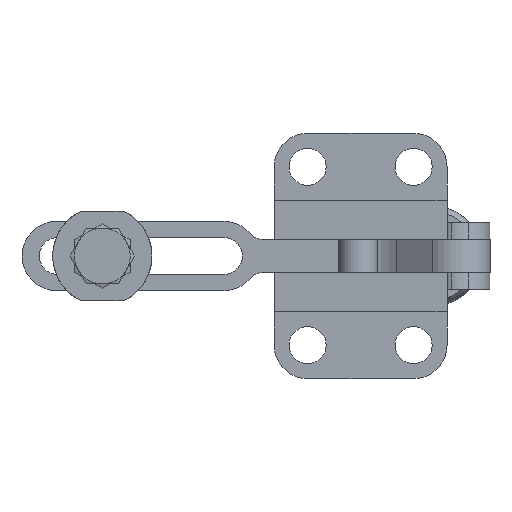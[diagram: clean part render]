
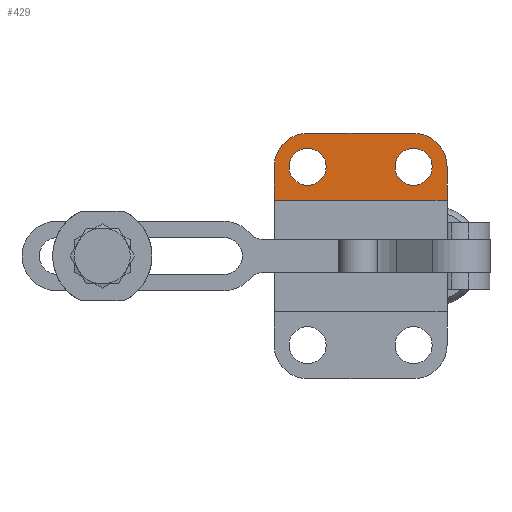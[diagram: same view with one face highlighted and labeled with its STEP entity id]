
A CAD part, front view. The second image highlights one B-rep face of the part: STEP entity #429.
In plain terms, the highlighted planar face has unit normal (0, -1, 0).
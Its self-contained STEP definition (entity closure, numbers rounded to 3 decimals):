
#429 = ADVANCED_FACE( '', ( #793, #794, #795 ), #796, .T. );
#793 = FACE_BOUND( '', #1532, .T. );
#794 = FACE_BOUND( '', #1533, .T. );
#795 = FACE_OUTER_BOUND( '', #1534, .T. );
#796 = PLANE( '', #1535 );
#1532 = EDGE_LOOP( '', ( #2361, #2362 ) );
#1533 = EDGE_LOOP( '', ( #2363, #2364 ) );
#1534 = EDGE_LOOP( '', ( #2365, #2366, #2367, #2368, #2369, #2370 ) );
#1535 = AXIS2_PLACEMENT_3D( '', #2371, #2372, #2373 );
#2361 = ORIENTED_EDGE( '', *, *, #5023, .T. );
#2362 = ORIENTED_EDGE( '', *, *, #5027, .T. );
#2363 = ORIENTED_EDGE( '', *, *, #5019, .T. );
#2364 = ORIENTED_EDGE( '', *, *, #5029, .T. );
#2365 = ORIENTED_EDGE( '', *, *, #5034, .T. );
#2366 = ORIENTED_EDGE( '', *, *, #5050, .F. );
#2367 = ORIENTED_EDGE( '', *, *, #5038, .T. );
#2368 = ORIENTED_EDGE( '', *, *, #5051, .T. );
#2369 = ORIENTED_EDGE( '', *, *, #5052, .T. );
#2370 = ORIENTED_EDGE( '', *, *, #5053, .F. );
#2371 = CARTESIAN_POINT( '', ( 0., 0., 22. ) );
#2372 = DIRECTION( '', ( 0., -1., 0. ) );
#2373 = DIRECTION( '', ( -1., 0., 0. ) );
#5019 = EDGE_CURVE( '', #5911, #5908, #5912, .T. );
#5023 = EDGE_CURVE( '', #5919, #5916, #5920, .T. );
#5027 = EDGE_CURVE( '', #5916, #5919, #5925, .T. );
#5029 = EDGE_CURVE( '', #5908, #5911, #5927, .T. );
#5034 = EDGE_CURVE( '', #5932, #5933, #5934, .T. );
#5038 = EDGE_CURVE( '', #5940, #5941, #5942, .T. );
#5050 = EDGE_CURVE( '', #5940, #5933, #5964, .T. );
#5051 = EDGE_CURVE( '', #5941, #5965, #5966, .T. );
#5052 = EDGE_CURVE( '', #5965, #5967, #5968, .T. );
#5053 = EDGE_CURVE( '', #5932, #5967, #5969, .T. );
#5908 = VERTEX_POINT( '', #7336 );
#5911 = VERTEX_POINT( '', #7340 );
#5912 = CIRCLE( '', #7341, 3.325 );
#5916 = VERTEX_POINT( '', #7346 );
#5919 = VERTEX_POINT( '', #7350 );
#5920 = CIRCLE( '', #7351, 3.325 );
#5925 = CIRCLE( '', #7357, 3.325 );
#5927 = CIRCLE( '', #7359, 3.325 );
#5932 = VERTEX_POINT( '', #7364 );
#5933 = VERTEX_POINT( '', #7365 );
#5934 = CIRCLE( '', #7366, 6. );
#5940 = VERTEX_POINT( '', #7374 );
#5941 = VERTEX_POINT( '', #7375 );
#5942 = CIRCLE( '', #7376, 6. );
#5964 = LINE( '', #7404, #7405 );
#5965 = VERTEX_POINT( '', #7406 );
#5966 = LINE( '', #7407, #7408 );
#5967 = VERTEX_POINT( '', #7409 );
#5968 = LINE( '', #7410, #7411 );
#5969 = LINE( '', #7412, #7413 );
#7336 = CARTESIAN_POINT( '', ( 9.325, 0., 16. ) );
#7340 = CARTESIAN_POINT( '', ( 2.675, 0., 16. ) );
#7341 = AXIS2_PLACEMENT_3D( '', #9896, #9897, #9898 );
#7346 = CARTESIAN_POINT( '', ( 28.325, 0., 16. ) );
#7350 = CARTESIAN_POINT( '', ( 21.675, 0., 16. ) );
#7351 = AXIS2_PLACEMENT_3D( '', #9904, #9905, #9906 );
#7357 = AXIS2_PLACEMENT_3D( '', #9914, #9915, #9916 );
#7359 = AXIS2_PLACEMENT_3D( '', #9920, #9921, #9922 );
#7364 = CARTESIAN_POINT( '', ( 31., 0., 16. ) );
#7365 = CARTESIAN_POINT( '', ( 25., 0., 22. ) );
#7366 = AXIS2_PLACEMENT_3D( '', #9935, #9936, #9937 );
#7374 = CARTESIAN_POINT( '', ( 6., 0., 22. ) );
#7375 = CARTESIAN_POINT( '', ( 0., 0., 16. ) );
#7376 = AXIS2_PLACEMENT_3D( '', #9943, #9944, #9945 );
#7404 = CARTESIAN_POINT( '', ( 0., 0., 22. ) );
#7405 = VECTOR( '', #9967, 1. );
#7406 = CARTESIAN_POINT( '', ( 0., 0., 10. ) );
#7407 = CARTESIAN_POINT( '', ( 0., 0., 22. ) );
#7408 = VECTOR( '', #9968, 1. );
#7409 = CARTESIAN_POINT( '', ( 31., 0., 10. ) );
#7410 = CARTESIAN_POINT( '', ( 25., 0., 10. ) );
#7411 = VECTOR( '', #9969, 1. );
#7412 = CARTESIAN_POINT( '', ( 31., 0., 22. ) );
#7413 = VECTOR( '', #9970, 1. );
#9896 = CARTESIAN_POINT( '', ( 6., 0., 16. ) );
#9897 = DIRECTION( '', ( 0., 1., 0. ) );
#9898 = DIRECTION( '', ( 1., 0., 0. ) );
#9904 = CARTESIAN_POINT( '', ( 25., 0., 16. ) );
#9905 = DIRECTION( '', ( 0., 1., 0. ) );
#9906 = DIRECTION( '', ( 1., 0., 0. ) );
#9914 = CARTESIAN_POINT( '', ( 25., 0., 16. ) );
#9915 = DIRECTION( '', ( 0., 1., 0. ) );
#9916 = DIRECTION( '', ( 1., 0., 0. ) );
#9920 = CARTESIAN_POINT( '', ( 6., 0., 16. ) );
#9921 = DIRECTION( '', ( 0., 1., 0. ) );
#9922 = DIRECTION( '', ( 1., 0., 0. ) );
#9935 = CARTESIAN_POINT( '', ( 25., 0., 16. ) );
#9936 = DIRECTION( '', ( 0., -1., 0. ) );
#9937 = DIRECTION( '', ( 0., 0., 1. ) );
#9943 = CARTESIAN_POINT( '', ( 6., 0., 16. ) );
#9944 = DIRECTION( '', ( 0., -1., 0. ) );
#9945 = DIRECTION( '', ( -1., 0., 0. ) );
#9967 = DIRECTION( '', ( 1., 0., 0. ) );
#9968 = DIRECTION( '', ( 0., 0., -1. ) );
#9969 = DIRECTION( '', ( 1., 0., 0. ) );
#9970 = DIRECTION( '', ( 0., 0., -1. ) );
